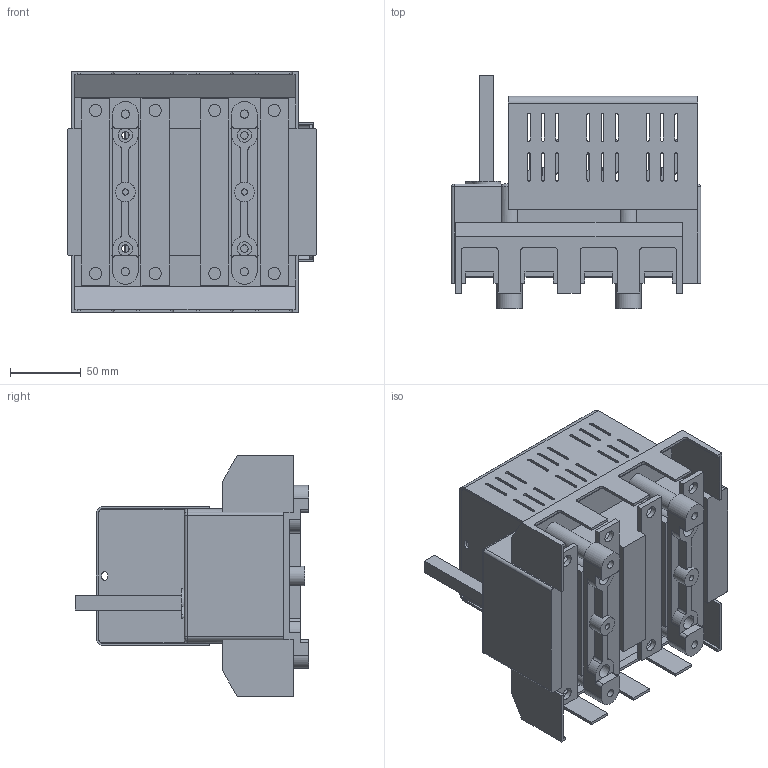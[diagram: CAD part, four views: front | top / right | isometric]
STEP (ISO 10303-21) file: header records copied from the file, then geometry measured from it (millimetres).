
FILE_DESCRIPTION(/* description */ (''),/* implementation_level */ '2;1');
FILE_NAME(/* name */ 'RAB 00 P3 N z oslona zaciskow.stp',/* time_stamp */ '2021-08-19T11:03:58+02:00',/* author */ (''),/* organization */ (''),/* preprocessor_version */ 'ST-DEVELOPER v18.1',/* originating_system */ 'SIEMENS PLM Software NX 1965',/* authorisation */ '');
FILE_SCHEMA (('AUTOMOTIVE_DESIGN { 1 0 10303 214 3 1 1 1 }'));
Length unit declared in the file: millimetre
Products named in the file (1): RAB 00 P3 N z oslona zaciskow_stp
Bounding box: 176 x 165 x 169.8 mm (x, y, z)
Volume: 1307687.3 mm3; surface area: 284217.8 mm2
Topology: 1 solids, 1 shells, 930 faces, 2698 edges, 1764 vertices
Faces by surface type: plane 608, cylinder 314, torus 4, sphere 4
Full cylindrical faces by diameter (mm): 2.7 x4, 4.3 x2, 5 x6, 5.3 x4, 5.8 x4, 8.5 x8, 10 x12, 13 x4, 14 x2
Entity records: 30330 total; most frequent: CARTESIAN_POINT 5333, ORIENTED_EDGE 5216, DIRECTION 5116, EDGE_CURVE 2608, LINE 1926, VECTOR 1926, VERTEX_POINT 1724, AXIS2_PLACEMENT_3D 1595
